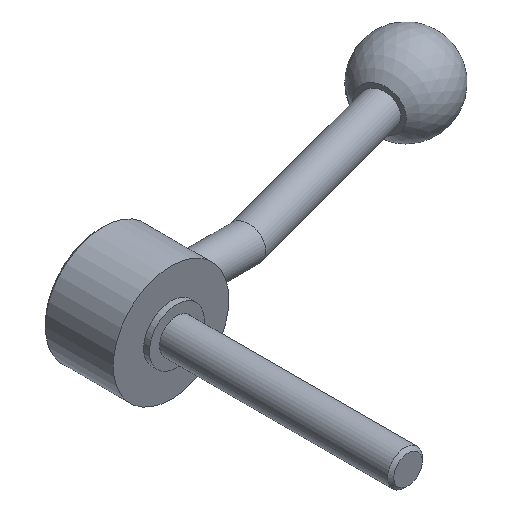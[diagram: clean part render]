
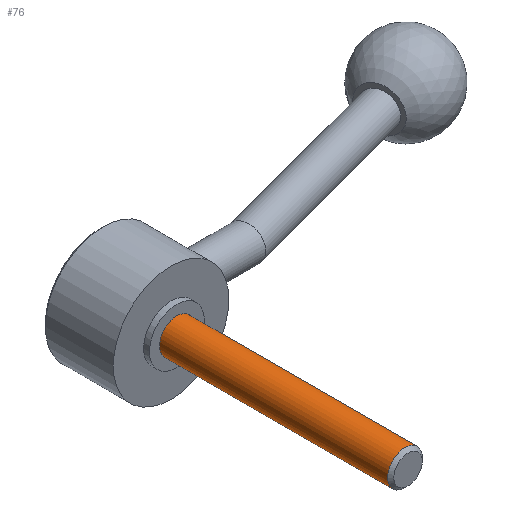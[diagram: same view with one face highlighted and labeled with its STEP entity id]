
A CAD part, isometric view. The second image highlights one B-rep face of the part: STEP entity #76.
In plain terms, the highlighted cylindrical face has radius 6 mm (diameter 12 mm), a full revolution.
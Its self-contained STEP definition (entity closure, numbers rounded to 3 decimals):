
#76 = ADVANCED_FACE( '', ( #94, #95 ), #96, .T. );
#94 = FACE_OUTER_BOUND( '', #138, .T. );
#95 = FACE_OUTER_BOUND( '', #139, .T. );
#96 = CYLINDRICAL_SURFACE( '', #140, 6. );
#138 = EDGE_LOOP( '', ( #184 ) );
#139 = EDGE_LOOP( '', ( #185 ) );
#140 = AXIS2_PLACEMENT_3D( '', #186, #187, #188 );
#184 = ORIENTED_EDGE( '', *, *, #254, .F. );
#185 = ORIENTED_EDGE( '', *, *, #255, .T. );
#186 = CARTESIAN_POINT( '', ( 0., -80., 0. ) );
#187 = DIRECTION( '', ( 0., 1., 0. ) );
#188 = DIRECTION( '', ( 0., 0., -1. ) );
#254 = EDGE_CURVE( '', #270, #270, #271, .T. );
#255 = EDGE_CURVE( '', #272, #272, #273, .T. );
#270 = VERTEX_POINT( '', #298 );
#271 = CIRCLE( '', #299, 6. );
#272 = VERTEX_POINT( '', #300 );
#273 = CIRCLE( '', #301, 6. );
#298 = CARTESIAN_POINT( '', ( 0., -78.927, -6. ) );
#299 = AXIS2_PLACEMENT_3D( '', #410, #411, #412 );
#300 = CARTESIAN_POINT( '', ( 0., 0., -6. ) );
#301 = AXIS2_PLACEMENT_3D( '', #413, #414, #415 );
#410 = CARTESIAN_POINT( '', ( 0., -78.927, 0. ) );
#411 = DIRECTION( '', ( 0., -1., 0. ) );
#412 = DIRECTION( '', ( 0., 0., -1. ) );
#413 = CARTESIAN_POINT( '', ( 0., 0., 0. ) );
#414 = DIRECTION( '', ( 0., -1., 0. ) );
#415 = DIRECTION( '', ( 0., 0., -1. ) );
